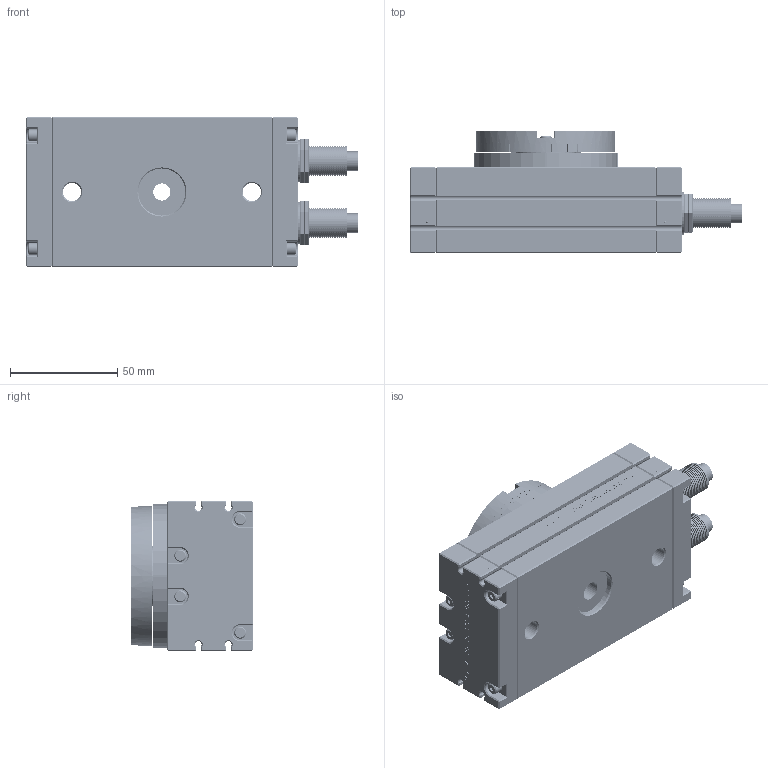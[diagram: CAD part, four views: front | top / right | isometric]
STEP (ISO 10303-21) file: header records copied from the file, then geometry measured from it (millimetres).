
FILE_DESCRIPTION (( 'STEP AP203' ), '1' );
FILE_NAME ('GTB 30.STEP', '2013-05-06T07:16:17', ( 'Christophe Gaillard' ), ( 'SGA' ), 'SwSTEP 2.0', 'SolidWorks 2010', '' );
FILE_SCHEMA (( 'CONFIG_CONTROL_DESIGN' ));
Products named in the file (11): Amortisseur RTB 30_Default; RTB 30 corp_Default; Vis pièce A et B RTB 30_Default; GTB 30; Pièce A GTB 30_Default; Boulon RTB 30_Default; Butée en caoutchouc GTB 30_Default; Pièce B GTB 30_Default; Petite vis GTB 30_Default; Disque RTB 30_Default; Vis corp 30_Default
Assembly tree (40 placements, depth 2):
  GTB 30
    Vis pièce A et B RTB 30_Default  x8
    Vis corp 30_Default  x12
    Boulon RTB 30_Default  x4
    Pièce A GTB 30_Default
    Petite vis GTB 30_Default  x8
    Butée en caoutchouc GTB 30_Default  x2
    Pièce B GTB 30_Default
    RTB 30 corp_Default
    Disque RTB 30_Default
    Amortisseur RTB 30_Default  x2
Bounding box: 155.1 x 57 x 70 mm (x, y, z)
Volume: 381199.4 mm3; surface area: 90032.1 mm2
Topology: 40 solids, 40 shells, 23207 faces, 53859 edges, 32568 vertices
Faces by surface type: plane 13093, cylinder 5011, cone 3711, bspline 594, torus 583, sphere 215
Entity records: 198034 total; most frequent: CARTESIAN_POINT 64601, DIRECTION 28083, ORIENTED_EDGE 26826, EDGE_CURVE 13413, AXIS2_PLACEMENT_3D 10596, VERTEX_POINT 7966, VECTOR 6891, LINE 6891
